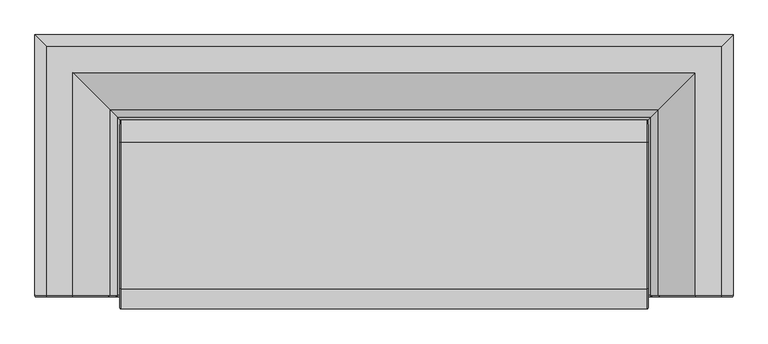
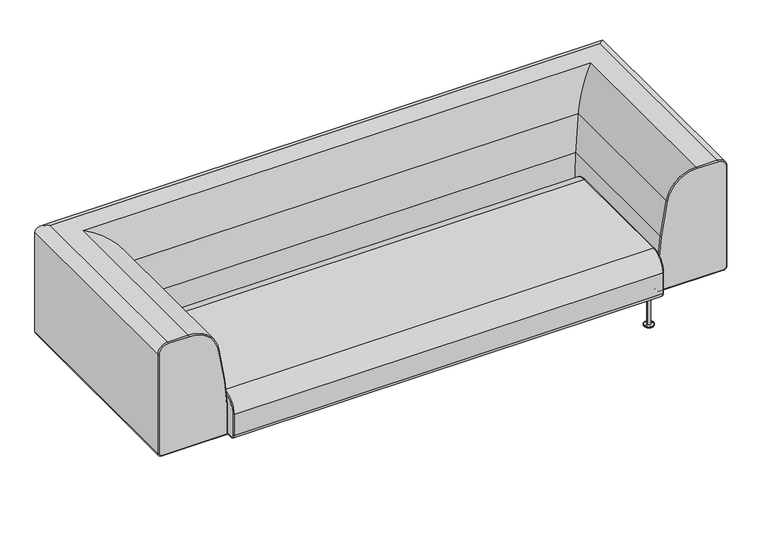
"""IFC4 building model written with IfcOpenShell, lengths in millimetres: furniture geometry, Hjelle - Gaia - Sofa - 3 Seater : Hjelle - Gaia - Sofa - 3 Seater."""

from ifc_helpers import new_model, si_unit, point, frame, origin, place, context, project, spatial, circle_curve, ellipse_curve, trimmed, source, transform, mapped, element, save
from ifc_brep_helpers import plane_surface, cylinder_surface, revolved_surface, advanced_brep


def furniture_0ea46fb2(model_context):
    return source(origin(), model_context, "Body", "AdvancedBrep", [
        advanced_brep(
        [(880.0, 260.6868798, 282.2761696), (880.0, 190.6868798, 352.2761696), (880.0, -298.6048224, 352.2761696), (880.0, -360.880992, 290.0), (880.0, -360.880992, 200.0), (880.0, -345.880992, 185.0), (880.0, 260.6868798, 185.0), (-880.0, 190.6868798, 352.2761696), (-880.0, 260.6868798, 282.2761696), (-880.0, 260.6868798, 185.0), (-880.0, -345.880992, 185.0), (-880.0, -360.880992, 200.0), (-880.0, -360.880992, 290.0), (-880.0, -298.6048224, 352.2761696), (-875.0, -365.880992, 290.0), (-875.0, -365.880992, 200.0), (875.0, -365.880992, 200.0), (875.0, -365.880992, 290.0), (-875.0, -345.880992, 180.0), (875.0, -345.880992, 180.0), (-875.0, 265.6868798, 180.0), (875.0, 265.6868798, 180.0), (-875.0, 265.6868798, 282.2761696), (875.0, 265.6868798, 282.2761696), (-875.0, 190.6868798, 357.2761696), (875.0, 190.6868798, 357.2761696), (-875.0, -298.6048224, 357.2761696), (875.0, -298.6048224, 357.2761696)],
        [
            (0, 1, circle_curve(frame((880.0, 190.6868798, 282.2761696), z_axis=(1.0, 0.0, 0.0), x_axis=(0.0, 0.0, 1.0)), 70.0)),
            (1, 2),
            (2, 3, circle_curve(frame((880.0, -298.6048224, 290.0), z_axis=(1.0, 0.0, 0.0), x_axis=(0.0, -1.0, 0.0)), 62.2761696)),
            (3, 4),
            (4, 5, circle_curve(frame((880.0, -345.880992, 200.0), z_axis=(1.0, 0.0, 0.0), x_axis=(0.0, 0.0, -1.0)), 15.0)),
            (5, 6),
            (6, 0),
            (7, 8, circle_curve(frame((-880.0, 190.6868798, 282.2761696), z_axis=(-1.0, 0.0, 0.0), x_axis=(0.0, 0.0, 1.0)), 70.0)),
            (8, 9),
            (9, 10),
            (10, 11, circle_curve(frame((-880.0, -345.880992, 200.0), z_axis=(-1.0, 0.0, 0.0), x_axis=(0.0, 0.0, -1.0)), 15.0)),
            (11, 12),
            (12, 13, circle_curve(frame((-880.0, -298.6048224, 290.0), z_axis=(-1.0, 0.0, 0.0), x_axis=(0.0, -1.0, 0.0)), 62.2761696)),
            (13, 7),
            (14, 15),
            (15, 16),
            (16, 17),
            (17, 14),
            (15, 18, circle_curve(frame((-875.0, -345.880992, 200.0), z_axis=(1.0, 0.0, 0.0), x_axis=(0.0, -1.0, 0.0)), 20.0)),
            (18, 19),
            (19, 16, circle_curve(frame((875.0, -345.880992, 200.0), z_axis=(-1.0, 0.0, 0.0), x_axis=(0.0, -1.0, 0.0)), 20.0)),
            (18, 20),
            (20, 21),
            (21, 19),
            (20, 22),
            (22, 23),
            (23, 21),
            (22, 24, circle_curve(frame((-875.0, 190.6868798, 282.2761696), z_axis=(1.0, 0.0, 0.0), x_axis=(0.0, -1.0, 0.0)), 75.0)),
            (24, 25),
            (25, 23, circle_curve(frame((875.0, 190.6868798, 282.2761696), z_axis=(-1.0, 0.0, 0.0), x_axis=(0.0, -1.0, 0.0)), 75.0)),
            (24, 26),
            (26, 27),
            (27, 25),
            (26, 14, circle_curve(frame((-875.0, -298.6048224, 290.0), z_axis=(1.0, 0.0, 0.0), x_axis=(0.0, -1.0, 0.0)), 67.2761696)),
            (17, 27, circle_curve(frame((875.0, -298.6048224, 290.0), z_axis=(-1.0, 0.0, 0.0), x_axis=(0.0, -1.0, 0.0)), 67.2761696)),
            (22, 8, circle_curve(frame((-875.0, 260.6868798, 282.2761696), z_axis=(0.0, 0.0, 1.0), x_axis=(1.0, 0.0, 0.0)), 5.0)),
            (7, 24, circle_curve(frame((-875.0, 190.6868798, 352.2761696), z_axis=(0.0, 1.0, 0.0), x_axis=(1.0, 0.0, 0.0)), 5.0)),
            (20, 9, ellipse_curve(frame((-875.0, 260.6868798, 185.0), z_axis=(0.0, 0.7071067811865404, 0.7071067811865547), x_axis=(0.0, 0.7071067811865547, -0.7071067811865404)), 7.0710678, 5.0)),
            (18, 10, circle_curve(frame((-875.0, -345.880992, 185.0), z_axis=(0.0, 1.0, 0.0), x_axis=(1.0, 0.0, 0.0)), 5.0)),
            (15, 11, circle_curve(frame((-875.0, -360.880992, 200.0), z_axis=(0.0, 0.0, -1.0), x_axis=(1.0, 0.0, 0.0)), 5.0)),
            (14, 12, circle_curve(frame((-875.0, -360.880992, 290.0), z_axis=(0.0, 0.0, -1.0), x_axis=(1.0, 0.0, 0.0)), 5.0)),
            (26, 13, circle_curve(frame((-875.0, -298.6048224, 352.2761696), z_axis=(0.0, -1.0, 0.0), x_axis=(1.0, 0.0, 0.0)), 5.0)),
            (0, 23, circle_curve(frame((875.0, 260.6868798, 282.2761696), z_axis=(0.0, 0.0, 1.0), x_axis=(-1.0, 0.0, 0.0)), 5.0)),
            (25, 1, circle_curve(frame((875.0, 190.6868798, 352.2761696), z_axis=(0.0, 1.0, 0.0), x_axis=(-1.0, 0.0, 0.0)), 5.0)),
            (6, 21, ellipse_curve(frame((875.0, 260.6868798, 185.0), z_axis=(0.0, 0.7071067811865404, 0.7071067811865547), x_axis=(0.0, 0.7071067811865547, -0.7071067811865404)), 7.0710678, 5.0)),
            (5, 19, circle_curve(frame((875.0, -345.880992, 185.0), z_axis=(0.0, 1.0, 0.0), x_axis=(-1.0, 0.0, 0.0)), 5.0)),
            (4, 16, circle_curve(frame((875.0, -360.880992, 200.0), z_axis=(0.0, 0.0, -1.0), x_axis=(-1.0, 0.0, 0.0)), 5.0)),
            (3, 17, circle_curve(frame((875.0, -360.880992, 290.0), z_axis=(0.0, 0.0, -1.0), x_axis=(-1.0, 0.0, 0.0)), 5.0)),
            (2, 27, circle_curve(frame((875.0, -298.6048224, 352.2761696), z_axis=(0.0, -1.0, 0.0), x_axis=(-1.0, 0.0, 0.0)), 5.0)),
        ],
        [
            plane_surface(frame((880.0, -365.880992, 200.0), z_axis=(1.0, 0.0, 0.0), x_axis=(0.0, 0.0, -1.0))),
            plane_surface(frame((-880.0, -365.880992, 200.0), z_axis=(-1.0, 0.0, 0.0), x_axis=(0.0, 0.0, 1.0))),
            plane_surface(frame((880.0, -365.880992, 290.0), z_axis=(0.0, -1.0, 0.0), x_axis=(-1.0, 0.0, 0.0))),
            cylinder_surface(frame((-880.0, -345.880992, 200.0), z_axis=(1.0, 0.0, 0.0), x_axis=(0.0, -1.0, 0.0)), 20.0),
            plane_surface(frame((880.0, -345.880992, 180.0), z_axis=(0.0, 0.0, -1.0), x_axis=(-1.0, 0.0, 0.0))),
            plane_surface(frame((880.0, 265.6868798, 180.0), z_axis=(0.0, 1.0, 0.0), x_axis=(-1.0, 0.0, 0.0))),
            cylinder_surface(frame((-880.0, 190.6868798, 282.2761696), z_axis=(1.0, 0.0, 0.0), x_axis=(0.0, -1.0, 0.0)), 75.0),
            plane_surface(frame((880.0, 190.6868798, 357.2761696), z_axis=(0.0, 0.0, 1.0), x_axis=(-1.0, 0.0, 0.0))),
            cylinder_surface(frame((-880.0, -298.6048224, 290.0), z_axis=(1.0, 0.0, 0.0), x_axis=(0.0, -1.0, 0.0)), 67.2761696),
            revolved_surface(trimmed(ellipse_curve(frame((-875.0, 190.6868798, 352.2761696), z_axis=(0.0, -1.0, 0.0), x_axis=(1.0, 0.0, 0.0)), 5.0, 5.0), [point((-875.0, 190.6868798, 357.2761696))], [point((-880.0, 190.6868798, 352.2761696))], True, "CARTESIAN"), (0.0, 190.6868798, 282.2761696), (-1.0, 0.0, 0.0)),
            cylinder_surface(frame((-875.0, 260.6868798, 282.2761696), z_axis=(0.0, 0.0, -1.0), x_axis=(1.0, 0.0, 0.0)), 5.0),
            cylinder_surface(frame((-875.0, 265.6868798, 185.0), z_axis=(0.0, -1.0, 0.0), x_axis=(1.0, 0.0, 0.0)), 5.0),
            revolved_surface(trimmed(ellipse_curve(frame((-875.0, -345.880992, 185.0), z_axis=(0.0, 1.0, 0.0), x_axis=(1.0, 0.0, 0.0)), 5.0, 5.0), [point((-875.0, -345.880992, 180.0))], [point((-880.0, -345.880992, 185.0))], True, "CARTESIAN"), (0.0, -345.880992, 200.0), (-1.0, 0.0, 0.0)),
            cylinder_surface(frame((-875.0, -360.880992, 200.0), z_axis=(0.0, 0.0, 1.0), x_axis=(1.0, 0.0, 0.0)), 5.0),
            revolved_surface(trimmed(ellipse_curve(frame((-875.0, -360.880992, 290.0), z_axis=(0.0, 0.0, -1.0), x_axis=(1.0, 0.0, 0.0)), 5.0, 5.0), [point((-875.0, -365.880992, 290.0))], [point((-880.0, -360.880992, 290.0))], True, "CARTESIAN"), (0.0, -298.6048224, 290.0), (-1.0, 0.0, 0.0)),
            cylinder_surface(frame((-875.0, -298.6048224, 352.2761696), z_axis=(0.0, 1.0, 0.0), x_axis=(1.0, 0.0, 0.0)), 5.0),
            revolved_surface(trimmed(ellipse_curve(frame((875.0, 190.6868798, 352.2761696), z_axis=(0.0, -1.0, 0.0), x_axis=(-1.0, 0.0, 0.0)), 5.0, 5.0), [point((880.0, 190.6868798, 352.2761696))], [point((875.0, 190.6868798, 357.2761696))], True, "CARTESIAN"), (0.0, 190.6868798, 282.2761696), (-1.0, 0.0, 0.0)),
            cylinder_surface(frame((875.0, 260.6868798, 282.2761696), z_axis=(0.0, 0.0, -1.0), x_axis=(-1.0, 0.0, 0.0)), 5.0),
            cylinder_surface(frame((875.0, 265.6868798, 185.0), z_axis=(0.0, -1.0, 0.0), x_axis=(-1.0, 0.0, 0.0)), 5.0),
            revolved_surface(trimmed(ellipse_curve(frame((875.0, -345.880992, 185.0), z_axis=(0.0, 1.0, 0.0), x_axis=(-1.0, 0.0, 0.0)), 5.0, 5.0), [point((880.0, -345.880992, 185.0))], [point((875.0, -345.880992, 180.0))], True, "CARTESIAN"), (0.0, -345.880992, 200.0), (-1.0, 0.0, 0.0)),
            cylinder_surface(frame((875.0, -360.880992, 200.0), z_axis=(0.0, 0.0, 1.0), x_axis=(-1.0, 0.0, 0.0)), 5.0),
            revolved_surface(trimmed(ellipse_curve(frame((875.0, -360.880992, 290.0), z_axis=(0.0, 0.0, -1.0), x_axis=(-1.0, 0.0, 0.0)), 5.0, 5.0), [point((880.0, -360.880992, 290.0))], [point((875.0, -365.880992, 290.0))], True, "CARTESIAN"), (0.0, -298.6048224, 290.0), (-1.0, 0.0, 0.0)),
            cylinder_surface(frame((875.0, -298.6048224, 352.2761696), z_axis=(0.0, 1.0, 0.0), x_axis=(-1.0, 0.0, 0.0)), 5.0),
        ],
        [
            (0, [[1, 2, 3, 4, 5, 6, 7]]),
            (1, [[8, 9, 10, 11, 12, 13, 14]]),
            (2, [[15, 16, 17, 18]]),
            (3, [[19, 20, 21, -16]]),
            (4, [[22, 23, 24, -20]]),
            (5, [[25, 26, 27, -23]]),
            (6, [[28, 29, 30, -26]]),
            (7, [[31, 32, 33, -29]]),
            (8, [[34, -18, 35, -32]]),
            (9, [[36, -8, 37, -28]]),
            (10, [[-36, -25, 38, -9]]),
            (11, [[-38, -22, 39, -10]]),
            (12, [[-39, -19, 40, -11]]),
            (13, [[-40, -15, 41, -12]]),
            (14, [[-41, -34, 42, -13]]),
            (15, [[-37, -14, -42, -31]]),
            (16, [[43, -30, 44, -1]]),
            (17, [[-43, -7, 45, -27]]),
            (18, [[-45, -6, 46, -24]]),
            (19, [[-46, -5, 47, -21]]),
            (20, [[-47, -4, 48, -17]]),
            (21, [[-48, -3, 49, -35]]),
            (22, [[-44, -33, -49, -2]]),
        ],
    ),
        advanced_brep(
        [(-1158.4321283, -325.880992, 195.0), (-1148.4321283, -325.880992, 185.0), (-885.0, -325.880992, 185.0), (-885.0, -325.880992, 310.1819798), (-894.1913094, -325.880992, 415.2391273), (-919.7055862, -325.880992, 559.9377813), (-1037.8825166, -325.880992, 659.1), (-1123.4321283, -325.880992, 659.1), (-1158.4321283, -325.880992, 624.1), (-1163.4321283, 549.119008, 624.1), (-1163.4321283, 549.119008, 195.0), (-1163.4321283, -320.8809993, 195.0), (-1163.4321283, -320.880992, 624.1), (-1148.4321283, 534.119008, 180.0), (-1148.4321283, -320.8809993, 180.0), (1148.4321283, 534.119008, 180.0), (1148.4321283, -320.880992, 180.0), (880.0, -320.880992, 180.0), (880.0, 265.6868798, 180.0), (-880.0, 265.6868798, 180.0), (-880.0, -320.880992, 180.0), (-880.0, 265.6868798, 310.1819798), (-880.0, -320.880992, 310.1819798), (-889.2672707, 274.9541505, 416.1073681), (-889.2672707, -320.8809927, 416.1073681), (-914.7815474, 300.4684272, 560.8060222), (-914.7815474, -320.880992, 560.8060222), (-1037.8825166, 423.5693964, 664.1), (-1037.8825166, -320.8809943, 664.1), (1037.8825166, 423.5693964, 664.1), (1037.8825166, -320.880992, 664.1), (1123.4321283, -320.880992, 664.1), (1123.4321283, 509.119008, 664.1), (-1123.4321283, 509.119008, 664.1), (-1123.4321283, -320.880992, 664.1), (1163.4321283, 549.119008, 624.1), (1163.4321283, 549.119008, 195.0), (880.0, 265.6868798, 310.1819798), (889.2672707, 274.9541505, 416.1073681), (914.7815474, 300.4684272, 560.8060222), (1148.4321283, -325.880992, 185.0), (1158.4321283, -325.880992, 195.0), (1158.4321283, -325.880992, 624.1), (1123.4321283, -325.880992, 659.1), (1037.8825166, -325.880992, 659.1), (919.7055862, -325.880992, 559.9377813), (894.1913094, -325.880992, 415.2391273), (885.0, -325.880992, 310.1819798), (885.0, -325.880992, 185.0), (1163.4321283, -320.880992, 624.1), (1163.4321283, -320.880992, 195.0), (880.0, -320.880992, 310.1819798), (889.2672707, -320.880992, 416.1073681), (914.7815474, -320.880992, 560.8060222)],
        [
            (0, 1, circle_curve(frame((-1148.4321283, -325.880992, 195.0), z_axis=(0.0, -1.0, 0.0), x_axis=(-1.0, 0.0, 0.0)), 10.0)),
            (1, 2),
            (2, 3),
            (3, 4, circle_curve(frame((-1490.0, -325.880992, 310.1819798), z_axis=(0.0, -1.0, 0.0), x_axis=(1.0, 0.0, 0.0)), 605.0)),
            (4, 5),
            (5, 6, circle_curve(frame((-1037.8825166, -325.880992, 539.1), z_axis=(0.0, -1.0, 0.0), x_axis=(0.9848077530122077, 0.0, 0.17364817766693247)), 120.0)),
            (6, 7),
            (7, 8, circle_curve(frame((-1123.4321283, -325.880992, 624.1), z_axis=(0.0, -1.0, 0.0), x_axis=(0.0, 0.0, 1.0)), 35.0)),
            (8, 0),
            (9, 10),
            (10, 11),
            (11, 12),
            (12, 9),
            (10, 13, ellipse_curve(frame((-1148.4321283, 534.119008, 195.0), z_axis=(-0.7071067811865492, -0.7071067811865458, 0.0), x_axis=(0.7071067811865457, -0.7071067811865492, 0.0)), 21.2132034, 15.0)),
            (13, 14),
            (14, 11, circle_curve(frame((-1148.4321283, -320.880992, 195.0), z_axis=(0.0, 1.0, 0.0), x_axis=(1.0, 0.0, 0.0)), 15.0)),
            (13, 15),
            (15, 16),
            (16, 17),
            (17, 18),
            (18, 19),
            (19, 20),
            (20, 14),
            (19, 21),
            (21, 22),
            (22, 20),
            (21, 23, ellipse_curve(frame((-1490.0, 875.6868798, 310.1819798), z_axis=(-0.7071067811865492, -0.7071067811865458, 0.0), x_axis=(0.7071067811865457, -0.7071067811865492, 0.0)), 862.670273, 610.0)),
            (23, 24),
            (24, 22, circle_curve(frame((-1490.0, -320.880992, 310.1819798), z_axis=(0.0, 1.0, 0.0), x_axis=(1.0, 0.0, 0.0)), 610.0)),
            (23, 25),
            (25, 26),
            (26, 24),
            (25, 27, ellipse_curve(frame((-1037.8825166, 423.5693964, 539.1), z_axis=(-0.7071067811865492, -0.7071067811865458, 0.0), x_axis=(0.7071067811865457, -0.7071067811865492, 0.0)), 176.7766953, 125.0)),
            (27, 28),
            (28, 26, circle_curve(frame((-1037.8825166, -320.880992, 539.1), z_axis=(0.0, 1.0, 0.0), x_axis=(1.0, 0.0, 0.0)), 125.0)),
            (27, 29),
            (29, 30),
            (30, 31),
            (31, 32),
            (32, 33),
            (33, 34),
            (34, 28),
            (33, 9, ellipse_curve(frame((-1123.4321283, 509.119008, 624.1), z_axis=(-0.7071067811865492, -0.7071067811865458, 0.0), x_axis=(0.7071067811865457, -0.7071067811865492, 0.0)), 56.5685425, 40.0)),
            (12, 34, circle_curve(frame((-1123.4321283, -320.880992, 624.1), z_axis=(0.0, 1.0, 0.0), x_axis=(1.0, 0.0, 0.0)), 40.0)),
            (9, 35),
            (35, 36),
            (36, 10),
            (36, 15, ellipse_curve(frame((1148.4321283, 534.119008, 195.0), z_axis=(-0.7071067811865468, 0.7071067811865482, 0.0), x_axis=(-0.7071067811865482, -0.7071067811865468, 0.0)), 21.2132034, 15.0)),
            (18, 37),
            (37, 21),
            (37, 38, ellipse_curve(frame((1490.0, 875.6868798, 310.1819798), z_axis=(-0.7071067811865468, 0.7071067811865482, 0.0), x_axis=(-0.7071067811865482, -0.7071067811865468, 0.0)), 862.670273, 610.0)),
            (38, 23),
            (38, 39),
            (39, 25),
            (39, 29, ellipse_curve(frame((1037.8825166, 423.5693964, 539.1), z_axis=(-0.7071067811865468, 0.7071067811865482, 0.0), x_axis=(-0.7071067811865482, -0.7071067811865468, 0.0)), 176.7766953, 125.0)),
            (32, 35, ellipse_curve(frame((1123.4321283, 509.119008, 624.1), z_axis=(-0.7071067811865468, 0.7071067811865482, 0.0), x_axis=(-0.7071067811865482, -0.7071067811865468, 0.0)), 56.5685425, 40.0)),
            (40, 41, circle_curve(frame((1148.4321283, -325.880992, 195.0), z_axis=(0.0, -1.0, 0.0), x_axis=(1.0, 0.0, 0.0)), 10.0)),
            (41, 42),
            (42, 43, circle_curve(frame((1123.4321283, -325.880992, 624.1), z_axis=(0.0, -1.0, 0.0), x_axis=(0.0, 0.0, 1.0)), 35.0)),
            (43, 44),
            (44, 45, circle_curve(frame((1037.8825166, -325.880992, 539.1), z_axis=(0.0, -1.0, 0.0), x_axis=(-0.9848077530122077, 0.0, 0.17364817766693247)), 120.0)),
            (45, 46),
            (46, 47, circle_curve(frame((1490.0, -325.880992, 310.1819798), z_axis=(0.0, -1.0, 0.0), x_axis=(-1.0, 0.0, 0.0)), 605.0)),
            (47, 48),
            (48, 40),
            (35, 49),
            (49, 50),
            (50, 36),
            (50, 16, circle_curve(frame((1148.4321283, -320.880992, 195.0), z_axis=(0.0, 1.0, 0.0), x_axis=(-1.0, 0.0, 0.0)), 15.0)),
            (17, 51),
            (51, 37),
            (51, 52, circle_curve(frame((1490.0, -320.880992, 310.1819798), z_axis=(0.0, 1.0, 0.0), x_axis=(-1.0, 0.0, 0.0)), 610.0)),
            (52, 38),
            (52, 53),
            (53, 39),
            (53, 30, circle_curve(frame((1037.8825166, -320.880992, 539.1), z_axis=(0.0, 1.0, 0.0), x_axis=(-1.0, 0.0, 0.0)), 125.0)),
            (31, 49, circle_curve(frame((1123.4321283, -320.880992, 624.1), z_axis=(0.0, 1.0, 0.0), x_axis=(-1.0, 0.0, 0.0)), 40.0)),
            (40, 16, circle_curve(frame((1148.4321283, -320.880992, 185.0), z_axis=(1.0, 0.0, 0.0), x_axis=(0.0, 0.0, 1.0)), 5.0)),
            (50, 41, circle_curve(frame((1158.4321283, -320.880992, 195.0), z_axis=(0.0, 0.0, -1.0), x_axis=(-1.0, 0.0, 0.0)), 5.0)),
            (48, 17, ellipse_curve(frame((885.0, -320.880992, 185.0), z_axis=(0.7071067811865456, 0.0, -0.7071067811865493), x_axis=(-0.7071067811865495, 0.0, -0.7071067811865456)), 7.0710678, 5.0)),
            (47, 51, circle_curve(frame((885.0, -320.880992, 310.1819798), z_axis=(0.0, 0.0, -1.0), x_axis=(1.0, 0.0, 0.0)), 5.0)),
            (46, 52, circle_curve(frame((894.1913094, -320.880992, 415.2391273), z_axis=(-0.17364817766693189, 0.0, -0.9848077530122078), x_axis=(0.9848077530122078, 0.0, -0.17364817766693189)), 5.0)),
            (45, 53, circle_curve(frame((919.7055862, -320.880992, 559.9377813), z_axis=(-0.17364817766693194, 0.0, -0.9848077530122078), x_axis=(0.9848077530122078, 0.0, -0.17364817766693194)), 5.0)),
            (44, 30, circle_curve(frame((1037.8825166, -320.880992, 659.1), z_axis=(-1.0, 0.0, 0.0), x_axis=(0.0, 0.0, -1.0)), 5.0)),
            (43, 31, circle_curve(frame((1123.4321283, -320.880992, 659.1), z_axis=(-1.0, 0.0, 0.0), x_axis=(0.0, 0.0, -1.0)), 5.0)),
            (42, 49, circle_curve(frame((1158.4321283, -320.880992, 624.1), z_axis=(0.0, 0.0, 1.0), x_axis=(-1.0, 0.0, 0.0)), 5.0)),
            (14, 1, circle_curve(frame((-1148.4321283, -320.880992, 185.0), z_axis=(-1.0, 0.0, 0.0), x_axis=(0.0, 0.0, 1.0)), 5.0)),
            (0, 11, circle_curve(frame((-1158.4321283, -320.880992, 195.0), z_axis=(0.0, 0.0, -1.0), x_axis=(1.0, 0.0, 0.0)), 5.0)),
            (20, 2, ellipse_curve(frame((-885.0, -320.880992, 185.0), z_axis=(-0.7071067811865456, 0.0, -0.7071067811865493), x_axis=(0.7071067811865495, 0.0, -0.7071067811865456)), 7.0710678, 5.0)),
            (22, 3, circle_curve(frame((-885.0, -320.880992, 310.1819798), z_axis=(0.0, 0.0, -1.0), x_axis=(-1.0, 0.0, 0.0)), 5.0)),
            (24, 4, circle_curve(frame((-894.1913094, -320.880992, 415.2391273), z_axis=(0.17364817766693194, 0.0, -0.9848077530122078), x_axis=(-0.9848077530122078, 0.0, -0.17364817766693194)), 5.0)),
            (26, 5, circle_curve(frame((-919.7055862, -320.880992, 559.9377813), z_axis=(0.173648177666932, 0.0, -0.9848077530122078), x_axis=(-0.9848077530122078, 0.0, -0.173648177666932)), 5.0)),
            (28, 6, circle_curve(frame((-1037.8825166, -320.880992, 659.1), z_axis=(1.0, 0.0, 0.0), x_axis=(0.0, 0.0, -1.0)), 5.0)),
            (34, 7, circle_curve(frame((-1123.4321283, -320.880992, 659.1), z_axis=(1.0, 0.0, 0.0), x_axis=(0.0, 0.0, -1.0)), 5.0)),
            (12, 8, circle_curve(frame((-1158.4321283, -320.880992, 624.1), z_axis=(0.0, 0.0, 1.0), x_axis=(1.0, 0.0, 0.0)), 5.0)),
        ],
        [
            plane_surface(frame((-1163.4321283, -325.880992, 0.0), z_axis=(0.0, -1.0, 0.0), x_axis=(0.0, 0.0, 1.0))),
            plane_surface(frame((-1163.4321283, -325.880992, 624.1), z_axis=(-1.0, 0.0, 0.0), x_axis=(0.0, 1.0, 0.0))),
            cylinder_surface(frame((-1148.4321283, -325.880992, 195.0), z_axis=(0.0, -1.0, 0.0), x_axis=(1.0, 0.0, 0.0)), 15.0),
            plane_surface(frame((-1148.4321283, -325.880992, 180.0), z_axis=(0.0, 0.0, -1.0), x_axis=(0.0, 1.0, 0.0))),
            plane_surface(frame((-880.0, -325.880992, 180.0), z_axis=(1.0, 0.0, 0.0), x_axis=(0.0, 1.0, 0.0))),
            cylinder_surface(frame((-1490.0, -325.880992, 310.1819798), z_axis=(0.0, -1.0, 0.0), x_axis=(1.0, 0.0, 0.0)), 610.0),
            plane_surface(frame((-889.2672707, -325.880992, 416.1073681), z_axis=(0.9848077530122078, 0.0, 0.17364817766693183), x_axis=(0.0, 1.0, 0.0))),
            cylinder_surface(frame((-1037.8825166, -325.880992, 539.1), z_axis=(0.0, -1.0, 0.0), x_axis=(1.0, 0.0, 0.0)), 125.0),
            plane_surface(frame((-1037.8825166, -325.880992, 664.1), z_axis=(0.0, 0.0, 1.0), x_axis=(0.0, 1.0, 0.0))),
            cylinder_surface(frame((-1123.4321283, -325.880992, 624.1), z_axis=(0.0, -1.0, 0.0), x_axis=(1.0, 0.0, 0.0)), 40.0),
            plane_surface(frame((-1163.4321283, 549.119008, 624.1), z_axis=(0.0, 1.0, 0.0), x_axis=(1.0, 0.0, 0.0))),
            cylinder_surface(frame((-1163.4321283, 534.119008, 195.0), z_axis=(-1.0, 0.0, 0.0), x_axis=(0.0, -1.0, 0.0)), 15.0),
            plane_surface(frame((-880.0, 265.6868798, 180.0), z_axis=(0.0, -1.0, 0.0), x_axis=(1.0, 0.0, 0.0))),
            cylinder_surface(frame((-1163.4321283, 875.6868798, 310.1819798), z_axis=(-1.0, 0.0, 0.0), x_axis=(0.0, -1.0, 0.0)), 610.0),
            plane_surface(frame((-889.2672707, 274.9541505, 416.1073681), z_axis=(0.0, -0.9848077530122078, 0.17364817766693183), x_axis=(1.0, 0.0, 0.0))),
            cylinder_surface(frame((-1163.4321283, 423.5693964, 539.1), z_axis=(-1.0, 0.0, 0.0), x_axis=(0.0, -1.0, 0.0)), 125.0),
            cylinder_surface(frame((-1163.4321283, 509.119008, 624.1), z_axis=(-1.0, 0.0, 0.0), x_axis=(0.0, -1.0, 0.0)), 40.0),
            plane_surface(frame((1163.4321283, -325.880992, 0.0), z_axis=(0.0, -1.0, 0.0), x_axis=(0.0, 0.0, 1.0))),
            plane_surface(frame((1163.4321283, 549.119008, 624.1), z_axis=(1.0, 0.0, 0.0), x_axis=(0.0, -1.0, 0.0))),
            cylinder_surface(frame((1148.4321283, 549.119008, 195.0), z_axis=(0.0, 1.0, 0.0), x_axis=(-1.0, 0.0, 0.0)), 15.0),
            plane_surface(frame((880.0, 265.6868798, 180.0), z_axis=(-1.0, 0.0, 0.0), x_axis=(0.0, -1.0, 0.0))),
            cylinder_surface(frame((1490.0, 549.119008, 310.1819798), z_axis=(0.0, 1.0, 0.0), x_axis=(-1.0, 0.0, 0.0)), 610.0),
            plane_surface(frame((889.2672707, 274.9541505, 416.1073681), z_axis=(-0.9848077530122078, 0.0, 0.17364817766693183), x_axis=(0.0, -1.0, 0.0))),
            cylinder_surface(frame((1037.8825166, 549.119008, 539.1), z_axis=(0.0, 1.0, 0.0), x_axis=(-1.0, 0.0, 0.0)), 125.0),
            cylinder_surface(frame((1123.4321283, 549.119008, 624.1), z_axis=(0.0, 1.0, 0.0), x_axis=(-1.0, 0.0, 0.0)), 40.0),
            revolved_surface(trimmed(ellipse_curve(frame((1158.4321283, -320.880992, 195.0), z_axis=(0.0, 0.0, 1.0), x_axis=(-1.0, 0.0, 0.0)), 5.0, 5.0), [point((1158.4321283, -325.880992, 195.0))], [point((1163.4321283, -320.880992, 195.0))], True, "CARTESIAN"), (1148.4321283, 0.0, 195.0), (0.0, 1.0, 0.0)),
            cylinder_surface(frame((1148.4321283, -320.880992, 185.0), z_axis=(-1.0, 0.0, 0.0), x_axis=(0.0, 0.0, 1.0)), 5.0),
            cylinder_surface(frame((885.0, -320.880992, 180.0), z_axis=(0.0, 0.0, 1.0), x_axis=(1.0, 0.0, 0.0)), 5.0),
            revolved_surface(trimmed(ellipse_curve(frame((885.0, -320.880992, 310.1819798), z_axis=(0.0, 0.0, -1.0), x_axis=(1.0, 0.0, 0.0)), 5.0, 5.0), [point((885.0, -325.880992, 310.1819798))], [point((880.0, -320.880992, 310.1819798))], True, "CARTESIAN"), (1490.0, 0.0, 310.1819798), (0.0, 1.0, 0.0)),
            cylinder_surface(frame((894.1913094, -320.880992, 415.2391273), z_axis=(0.17364817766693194, 0.0, 0.9848077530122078), x_axis=(0.9848077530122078, 0.0, -0.17364817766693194)), 5.0),
            revolved_surface(trimmed(ellipse_curve(frame((919.7055862, -320.880992, 559.9377813), z_axis=(-0.1736481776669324, 0.0, -0.9848077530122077), x_axis=(0.9848077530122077, 0.0, -0.1736481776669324)), 5.0, 5.0), [point((919.7055862, -325.880992, 559.9377813))], [point((914.7815474, -320.880992, 560.8060222))], True, "CARTESIAN"), (1037.8825166, 0.0, 539.1), (0.0, 1.0, 0.0)),
            cylinder_surface(frame((1037.8825166, -320.880992, 659.1), z_axis=(1.0, 0.0, 0.0), x_axis=(0.0, 0.0, -1.0)), 5.0),
            revolved_surface(trimmed(ellipse_curve(frame((1123.4321283, -320.880992, 659.1), z_axis=(-1.0, 0.0, 0.0), x_axis=(0.0, 0.0, -1.0)), 5.0, 5.0), [point((1123.4321283, -325.880992, 659.1))], [point((1123.4321283, -320.880992, 664.1))], True, "CARTESIAN"), (1123.4321283, 0.0, 624.1), (0.0, 1.0, 0.0)),
            cylinder_surface(frame((1158.4321283, -320.880992, 624.1), z_axis=(0.0, 0.0, -1.0), x_axis=(-1.0, 0.0, 0.0)), 5.0),
            revolved_surface(trimmed(ellipse_curve(frame((-1158.4321283, -320.880992, 195.0), z_axis=(0.0, 0.0, 1.0), x_axis=(1.0, 0.0, 0.0)), 5.0, 5.0), [point((-1163.4321283, -320.880992, 195.0))], [point((-1158.4321283, -325.880992, 195.0))], True, "CARTESIAN"), (-1148.4321283, 0.0, 195.0), (0.0, -1.0, 0.0)),
            cylinder_surface(frame((-1148.4321283, -320.880992, 185.0), z_axis=(1.0, 0.0, 0.0), x_axis=(0.0, 0.0, 1.0)), 5.0),
            cylinder_surface(frame((-885.0, -320.880992, 180.0), z_axis=(0.0, 0.0, 1.0), x_axis=(-1.0, 0.0, 0.0)), 5.0),
            revolved_surface(trimmed(ellipse_curve(frame((-885.0, -320.880992, 310.1819798), z_axis=(0.0, 0.0, -1.0), x_axis=(-1.0, 0.0, 0.0)), 5.0, 5.0), [point((-880.0, -320.880992, 310.1819798))], [point((-885.0, -325.880992, 310.1819798))], True, "CARTESIAN"), (-1490.0, 0.0, 310.1819798), (0.0, -1.0, 0.0)),
            cylinder_surface(frame((-894.1913094, -320.880992, 415.2391273), z_axis=(-0.173648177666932, 0.0, 0.9848077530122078), x_axis=(-0.9848077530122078, 0.0, -0.173648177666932)), 5.0),
            revolved_surface(trimmed(ellipse_curve(frame((-919.7055862, -320.880992, 559.9377813), z_axis=(0.17364817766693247, 0.0, -0.9848077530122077), x_axis=(-0.9848077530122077, 0.0, -0.17364817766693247)), 5.0, 5.0), [point((-914.7815474, -320.880992, 560.8060222))], [point((-919.7055862, -325.880992, 559.9377813))], True, "CARTESIAN"), (-1037.8825166, 0.0, 539.1), (0.0, -1.0, 0.0)),
            cylinder_surface(frame((-1037.8825166, -320.880992, 659.1), z_axis=(-1.0, 0.0, 0.0), x_axis=(0.0, 0.0, -1.0)), 5.0),
            revolved_surface(trimmed(ellipse_curve(frame((-1123.4321283, -320.880992, 659.1), z_axis=(1.0, 0.0, 0.0), x_axis=(0.0, 0.0, -1.0)), 5.0, 5.0), [point((-1123.4321283, -320.880992, 664.1))], [point((-1123.4321283, -325.880992, 659.1))], True, "CARTESIAN"), (-1123.4321283, 0.0, 624.1), (0.0, -1.0, 0.0)),
            cylinder_surface(frame((-1158.4321283, -320.880992, 624.1), z_axis=(0.0, 0.0, -1.0), x_axis=(1.0, 0.0, 0.0)), 5.0),
        ],
        [
            (0, [[1, 2, 3, 4, 5, 6, 7, 8, 9]]),
            (1, [[10, 11, 12, 13]]),
            (2, [[14, 15, 16, -11]]),
            (3, [[17, 18, 19, 20, 21, 22, 23, -15]]),
            (4, [[24, 25, 26, -22]]),
            (5, [[27, 28, 29, -25]]),
            (6, [[30, 31, 32, -28]]),
            (7, [[33, 34, 35, -31]]),
            (8, [[36, 37, 38, 39, 40, 41, 42, -34]]),
            (9, [[43, -13, 44, -41]]),
            (10, [[-10, 45, 46, 47]]),
            (11, [[-14, -47, 48, -17]]),
            (12, [[-21, 49, 50, -24]]),
            (13, [[-27, -50, 51, 52]]),
            (14, [[-30, -52, 53, 54]]),
            (15, [[-33, -54, 55, -36]]),
            (16, [[-40, 56, -45, -43]]),
            (17, [[57, 58, 59, 60, 61, 62, 63, 64, 65]]),
            (18, [[-46, 66, 67, 68]]),
            (19, [[-48, -68, 69, -18]]),
            (20, [[-49, -20, 70, 71]]),
            (21, [[-51, -71, 72, 73]]),
            (22, [[-53, -73, 74, 75]]),
            (23, [[-55, -75, 76, -37]]),
            (24, [[-56, -39, 77, -66]]),
            (25, [[78, -69, 79, -57]]),
            (26, [[-78, -65, 80, -19]]),
            (27, [[-80, -64, 81, -70]]),
            (28, [[-81, -63, 82, -72]]),
            (29, [[-82, -62, 83, -74]]),
            (30, [[-83, -61, 84, -76]]),
            (31, [[-84, -60, 85, -38]]),
            (32, [[-85, -59, 86, -77]]),
            (33, [[-79, -67, -86, -58]]),
            (34, [[87, -1, 88, -16]]),
            (35, [[-87, -23, 89, -2]]),
            (36, [[-89, -26, 90, -3]]),
            (37, [[-90, -29, 91, -4]]),
            (38, [[-91, -32, 92, -5]]),
            (39, [[-92, -35, 93, -6]]),
            (40, [[-93, -42, 94, -7]]),
            (41, [[-94, -44, 95, -8]]),
            (42, [[-88, -9, -95, -12]]),
        ],
    ),
        advanced_brep(
        [(861.0005135, 469.904008, 4.0), (899.0005135, 469.904008, 4.0), (887.0005135, 469.904008, 4.0), (873.0005135, 469.904008, 4.0), (860.0005135, 469.904008, 3.0), (900.0005135, 469.904008, 3.0), (860.0005135, 469.904008, 1.0), (900.0005135, 469.904008, 1.0), (861.0005135, 469.904008, 0.0), (899.0005135, 469.904008, 0.0), (880.0005135, 469.904008, 0.0), (840.0005135, 469.904008, 180.0), (920.0005135, 469.904008, 180.0), (880.0005135, 469.904008, 180.0), (840.0005135, 469.904008, 177.0), (920.0005135, 469.904008, 177.0), (841.0005135, 469.904008, 176.0), (919.0005135, 469.904008, 176.0), (873.0005135, 469.904008, 176.0), (887.0005135, 469.904008, 176.0)],
        [
            (0, 1, circle_curve(frame((880.0005135, 469.904008, 4.0), z_axis=(0.0, 0.0, 1.0), x_axis=(1.0, 0.0, 0.0)), 19.0)),
            (1, 2),
            (2, 3, circle_curve(frame((880.0005135, 469.904008, 4.0), z_axis=(0.0, 0.0, -1.0), x_axis=(1.0, 0.0, 0.0)), 7.0)),
            (3, 0),
            (1, 0, circle_curve(frame((880.0005135, 469.904008, 4.0), z_axis=(0.0, 0.0, 1.0), x_axis=(1.0, 0.0, 0.0)), 19.0)),
            (3, 2, circle_curve(frame((880.0005135, 469.904008, 4.0), z_axis=(0.0, 0.0, -1.0), x_axis=(1.0, 0.0, 0.0)), 7.0)),
            (4, 5, circle_curve(frame((880.0005135, 469.904008, 3.0), z_axis=(0.0, 0.0, 1.0), x_axis=(1.0, 0.0, 0.0)), 20.0)),
            (5, 1, circle_curve(frame((899.0005135, 469.904008, 3.0), z_axis=(0.0, -1.0, 0.0), x_axis=(-1.0, 0.0, 0.0)), 1.0)),
            (0, 4, circle_curve(frame((861.0005135, 469.904008, 3.0), z_axis=(0.0, -1.0, 0.0), x_axis=(1.0, 0.0, 0.0)), 1.0)),
            (5, 4, circle_curve(frame((880.0005135, 469.904008, 3.0), z_axis=(0.0, 0.0, 1.0), x_axis=(1.0, 0.0, 0.0)), 20.0)),
            (6, 7, circle_curve(frame((880.0005135, 469.904008, 1.0), z_axis=(0.0, 0.0, 1.0), x_axis=(1.0, 0.0, 0.0)), 20.0)),
            (7, 5),
            (4, 6),
            (7, 6, circle_curve(frame((880.0005135, 469.904008, 1.0), z_axis=(0.0, 0.0, 1.0), x_axis=(1.0, 0.0, 0.0)), 20.0)),
            (8, 9, circle_curve(frame((880.0005135, 469.904008, 0.0), z_axis=(0.0, 0.0, 1.0), x_axis=(1.0, 0.0, 0.0)), 19.0)),
            (9, 7, circle_curve(frame((899.0005135, 469.904008, 1.0), z_axis=(0.0, -1.0, 0.0), x_axis=(-1.0, 0.0, 0.0)), 1.0)),
            (6, 8, circle_curve(frame((861.0005135, 469.904008, 1.0), z_axis=(0.0, -1.0, 0.0), x_axis=(1.0, 0.0, 0.0)), 1.0)),
            (9, 8, circle_curve(frame((880.0005135, 469.904008, 0.0), z_axis=(0.0, 0.0, 1.0), x_axis=(1.0, 0.0, 0.0)), 19.0)),
            (10, 9),
            (8, 10),
            (11, 12, circle_curve(frame((880.0005135, 469.904008, 180.0), z_axis=(0.0, 0.0, 1.0), x_axis=(1.0, 0.0, 0.0)), 40.0)),
            (12, 13),
            (13, 11),
            (12, 11, circle_curve(frame((880.0005135, 469.904008, 180.0), z_axis=(0.0, 0.0, 1.0), x_axis=(1.0, 0.0, 0.0)), 40.0)),
            (14, 15, circle_curve(frame((880.0005135, 469.904008, 177.0), z_axis=(0.0, 0.0, 1.0), x_axis=(1.0, 0.0, 0.0)), 40.0)),
            (15, 12),
            (11, 14),
            (15, 14, circle_curve(frame((880.0005135, 469.904008, 177.0), z_axis=(0.0, 0.0, 1.0), x_axis=(1.0, 0.0, 0.0)), 40.0)),
            (16, 17, circle_curve(frame((880.0005135, 469.904008, 176.0), z_axis=(0.0, 0.0, 1.0), x_axis=(1.0, 0.0, 0.0)), 39.0)),
            (17, 15, circle_curve(frame((919.0005135, 469.904008, 177.0), z_axis=(0.0, -1.0, 0.0), x_axis=(-1.0, 0.0, 0.0)), 1.0)),
            (14, 16, circle_curve(frame((841.0005135, 469.904008, 177.0), z_axis=(0.0, -1.0, 0.0), x_axis=(1.0, 0.0, 0.0)), 1.0)),
            (17, 16, circle_curve(frame((880.0005135, 469.904008, 176.0), z_axis=(0.0, 0.0, 1.0), x_axis=(1.0, 0.0, 0.0)), 39.0)),
            (18, 19, circle_curve(frame((880.0005135, 469.904008, 176.0), z_axis=(0.0, 0.0, 1.0), x_axis=(1.0, 0.0, 0.0)), 7.0)),
            (19, 17),
            (16, 18),
            (19, 18, circle_curve(frame((880.0005135, 469.904008, 176.0), z_axis=(0.0, 0.0, 1.0), x_axis=(1.0, 0.0, 0.0)), 7.0)),
            (2, 19),
            (18, 3),
        ],
        [
            plane_surface(frame((880.0005135, 469.904008, 4.0), z_axis=(0.0, 0.0, 1.0), x_axis=(1.0, 0.0, 0.0))),
            revolved_surface(trimmed(ellipse_curve(frame((899.0005135, 469.904008, 3.0), z_axis=(0.0, 1.0, 0.0), x_axis=(-1.0, 0.0, 0.0)), 1.0, 1.0), [point((899.0005135, 469.904008, 4.0))], [point((900.0005135, 469.904008, 3.0))], True, "CARTESIAN"), (880.0005135, 469.904008, -14.0), (0.0, 0.0, -1.0)),
            cylinder_surface(frame((880.0005135, 469.904008, -14.0), z_axis=(0.0, 0.0, -1.0), x_axis=(1.0, 0.0, 0.0)), 20.0),
            revolved_surface(trimmed(ellipse_curve(frame((899.0005135, 469.904008, 1.0), z_axis=(0.0, 1.0, 0.0), x_axis=(-1.0, 0.0, 0.0)), 1.0, 1.0), [point((900.0005135, 469.904008, 1.0))], [point((899.0005135, 469.904008, 0.0))], True, "CARTESIAN"), (880.0005135, 469.904008, -14.0), (0.0, 0.0, -1.0)),
            plane_surface(frame((880.0005135, 469.904008, 0.0), z_axis=(0.0, 0.0, -1.0), x_axis=(1.0, 0.0, 0.0))),
            plane_surface(frame((880.0005135, 469.904008, 180.0), z_axis=(0.0, 0.0, 1.0), x_axis=(1.0, 0.0, 0.0))),
            cylinder_surface(frame((880.0005135, 469.904008, -14.0), z_axis=(0.0, 0.0, -1.0), x_axis=(1.0, 0.0, 0.0)), 40.0),
            revolved_surface(trimmed(ellipse_curve(frame((919.0005135, 469.904008, 177.0), z_axis=(0.0, 1.0, 0.0), x_axis=(-1.0, 0.0, 0.0)), 1.0, 1.0), [point((920.0005135, 469.904008, 177.0))], [point((919.0005135, 469.904008, 176.0))], True, "CARTESIAN"), (880.0005135, 469.904008, -14.0), (0.0, 0.0, -1.0)),
            plane_surface(frame((880.0005135, 469.904008, 176.0), z_axis=(0.0, 0.0, -1.0), x_axis=(1.0, 0.0, 0.0))),
            cylinder_surface(frame((880.0005135, 469.904008, -14.0), z_axis=(0.0, 0.0, -1.0), x_axis=(1.0, 0.0, 0.0)), 7.0),
        ],
        [
            (0, [[1, 2, 3, 4]]),
            (0, [[5, -4, 6, -2]]),
            (1, [[7, 8, -1, 9]]),
            (1, [[10, -9, -5, -8]]),
            (2, [[11, 12, -7, 13]]),
            (2, [[14, -13, -10, -12]]),
            (3, [[15, 16, -11, 17]]),
            (3, [[18, -17, -14, -16]]),
            (4, [[19, -15, 20]]),
            (4, [[-20, -18, -19]]),
            (5, [[21, 22, 23]]),
            (5, [[24, -23, -22]]),
            (6, [[25, 26, -21, 27]]),
            (6, [[28, -27, -24, -26]]),
            (7, [[29, 30, -25, 31]]),
            (7, [[32, -31, -28, -30]]),
            (8, [[33, 34, -29, 35]]),
            (8, [[36, -35, -32, -34]]),
            (9, [[-3, 37, -33, 38]]),
            (9, [[-6, -38, -36, -37]]),
        ],
    ),
        advanced_brep(
        [(873.0005135, -260.095992, 4.0), (887.0005135, -260.095992, 4.0), (899.0005135, -260.095992, 4.0), (861.0005135, -260.095992, 4.0), (900.0005135, -260.095992, 3.0), (860.0005135, -260.095992, 3.0), (900.0005135, -260.095992, 1.0), (860.0005135, -260.095992, 1.0), (899.0005135, -260.095992, 0.0), (861.0005135, -260.095992, 0.0), (880.0005135, -260.095992, 0.0), (880.0005135, -260.095992, 180.0), (920.0005135, -260.095992, 180.0), (840.0005135, -260.095992, 180.0), (920.0005135, -260.095992, 177.0), (840.0005135, -260.095992, 177.0), (919.0005135, -260.095992, 176.0), (841.0005135, -260.095992, 176.0), (887.0005135, -260.095992, 176.0), (873.0005135, -260.095992, 176.0)],
        [
            (0, 1, circle_curve(frame((880.0005135, -260.095992, 4.0), z_axis=(0.0, 0.0, -1.0), x_axis=(1.0, 0.0, 0.0)), 7.0)),
            (1, 2),
            (2, 3, circle_curve(frame((880.0005135, -260.095992, 4.0), z_axis=(0.0, 0.0, 1.0), x_axis=(1.0, 0.0, 0.0)), 19.0)),
            (3, 0),
            (1, 0, circle_curve(frame((880.0005135, -260.095992, 4.0), z_axis=(0.0, 0.0, -1.0), x_axis=(1.0, 0.0, 0.0)), 7.0)),
            (3, 2, circle_curve(frame((880.0005135, -260.095992, 4.0), z_axis=(0.0, 0.0, 1.0), x_axis=(1.0, 0.0, 0.0)), 19.0)),
            (2, 4, circle_curve(frame((899.0005135, -260.095992, 3.0), z_axis=(0.0, 1.0, 0.0), x_axis=(-1.0, 0.0, 0.0)), 1.0)),
            (4, 5, circle_curve(frame((880.0005135, -260.095992, 3.0), z_axis=(0.0, 0.0, 1.0), x_axis=(1.0, 0.0, 0.0)), 20.0)),
            (5, 3, circle_curve(frame((861.0005135, -260.095992, 3.0), z_axis=(0.0, 1.0, 0.0), x_axis=(1.0, 0.0, 0.0)), 1.0)),
            (5, 4, circle_curve(frame((880.0005135, -260.095992, 3.0), z_axis=(0.0, 0.0, 1.0), x_axis=(1.0, 0.0, 0.0)), 20.0)),
            (4, 6),
            (6, 7, circle_curve(frame((880.0005135, -260.095992, 1.0), z_axis=(0.0, 0.0, 1.0), x_axis=(1.0, 0.0, 0.0)), 20.0)),
            (7, 5),
            (7, 6, circle_curve(frame((880.0005135, -260.095992, 1.0), z_axis=(0.0, 0.0, 1.0), x_axis=(1.0, 0.0, 0.0)), 20.0)),
            (6, 8, circle_curve(frame((899.0005135, -260.095992, 1.0), z_axis=(0.0, 1.0, 0.0), x_axis=(-1.0, 0.0, 0.0)), 1.0)),
            (8, 9, circle_curve(frame((880.0005135, -260.095992, 0.0), z_axis=(0.0, 0.0, 1.0), x_axis=(1.0, 0.0, 0.0)), 19.0)),
            (9, 7, circle_curve(frame((861.0005135, -260.095992, 1.0), z_axis=(0.0, 1.0, 0.0), x_axis=(1.0, 0.0, 0.0)), 1.0)),
            (9, 8, circle_curve(frame((880.0005135, -260.095992, 0.0), z_axis=(0.0, 0.0, 1.0), x_axis=(1.0, 0.0, 0.0)), 19.0)),
            (8, 10),
            (10, 9),
            (11, 12),
            (12, 13, circle_curve(frame((880.0005135, -260.095992, 180.0), z_axis=(0.0, 0.0, 1.0), x_axis=(1.0, 0.0, 0.0)), 40.0)),
            (13, 11),
            (13, 12, circle_curve(frame((880.0005135, -260.095992, 180.0), z_axis=(0.0, 0.0, 1.0), x_axis=(1.0, 0.0, 0.0)), 40.0)),
            (12, 14),
            (14, 15, circle_curve(frame((880.0005135, -260.095992, 177.0), z_axis=(0.0, 0.0, 1.0), x_axis=(1.0, 0.0, 0.0)), 40.0)),
            (15, 13),
            (15, 14, circle_curve(frame((880.0005135, -260.095992, 177.0), z_axis=(0.0, 0.0, 1.0), x_axis=(1.0, 0.0, 0.0)), 40.0)),
            (14, 16, circle_curve(frame((919.0005135, -260.095992, 177.0), z_axis=(0.0, 1.0, 0.0), x_axis=(-1.0, 0.0, 0.0)), 1.0)),
            (16, 17, circle_curve(frame((880.0005135, -260.095992, 176.0), z_axis=(0.0, 0.0, 1.0), x_axis=(1.0, 0.0, 0.0)), 39.0)),
            (17, 15, circle_curve(frame((841.0005135, -260.095992, 177.0), z_axis=(0.0, 1.0, 0.0), x_axis=(1.0, 0.0, 0.0)), 1.0)),
            (17, 16, circle_curve(frame((880.0005135, -260.095992, 176.0), z_axis=(0.0, 0.0, 1.0), x_axis=(1.0, 0.0, 0.0)), 39.0)),
            (16, 18),
            (18, 19, circle_curve(frame((880.0005135, -260.095992, 176.0), z_axis=(0.0, 0.0, 1.0), x_axis=(1.0, 0.0, 0.0)), 7.0)),
            (19, 17),
            (19, 18, circle_curve(frame((880.0005135, -260.095992, 176.0), z_axis=(0.0, 0.0, 1.0), x_axis=(1.0, 0.0, 0.0)), 7.0)),
            (18, 1),
            (0, 19),
        ],
        [
            plane_surface(frame((880.0005135, -260.095992, 4.0), z_axis=(0.0, 0.0, 1.0), x_axis=(1.0, 0.0, 0.0))),
            revolved_surface(trimmed(ellipse_curve(frame((899.0005135, -260.095992, 3.0), z_axis=(0.0, -1.0, 0.0), x_axis=(-1.0, 0.0, 0.0)), 1.0, 1.0), [point((900.0005135, -260.095992, 3.0))], [point((899.0005135, -260.095992, 4.0))], True, "CARTESIAN"), (880.0005135, -260.095992, -14.0), (0.0, 0.0, 1.0)),
            cylinder_surface(frame((880.0005135, -260.095992, -14.0), z_axis=(0.0, 0.0, 1.0), x_axis=(1.0, 0.0, 0.0)), 20.0),
            revolved_surface(trimmed(ellipse_curve(frame((899.0005135, -260.095992, 1.0), z_axis=(0.0, -1.0, 0.0), x_axis=(-1.0, 0.0, 0.0)), 1.0, 1.0), [point((899.0005135, -260.095992, 0.0))], [point((900.0005135, -260.095992, 1.0))], True, "CARTESIAN"), (880.0005135, -260.095992, -14.0), (0.0, 0.0, 1.0)),
            plane_surface(frame((880.0005135, -260.095992, 0.0), z_axis=(0.0, 0.0, -1.0), x_axis=(1.0, 0.0, 0.0))),
            plane_surface(frame((880.0005135, -260.095992, 180.0), z_axis=(0.0, 0.0, 1.0), x_axis=(1.0, 0.0, 0.0))),
            cylinder_surface(frame((880.0005135, -260.095992, -14.0), z_axis=(0.0, 0.0, 1.0), x_axis=(1.0, 0.0, 0.0)), 40.0),
            revolved_surface(trimmed(ellipse_curve(frame((919.0005135, -260.095992, 177.0), z_axis=(0.0, -1.0, 0.0), x_axis=(-1.0, 0.0, 0.0)), 1.0, 1.0), [point((919.0005135, -260.095992, 176.0))], [point((920.0005135, -260.095992, 177.0))], True, "CARTESIAN"), (880.0005135, -260.095992, -14.0), (0.0, 0.0, 1.0)),
            plane_surface(frame((880.0005135, -260.095992, 176.0), z_axis=(0.0, 0.0, -1.0), x_axis=(1.0, 0.0, 0.0))),
            cylinder_surface(frame((880.0005135, -260.095992, -14.0), z_axis=(0.0, 0.0, 1.0), x_axis=(1.0, 0.0, 0.0)), 7.0),
        ],
        [
            (0, [[1, 2, 3, 4]]),
            (0, [[5, -4, 6, -2]]),
            (1, [[-3, 7, 8, 9]]),
            (1, [[-6, -9, 10, -7]]),
            (2, [[-8, 11, 12, 13]]),
            (2, [[-10, -13, 14, -11]]),
            (3, [[-12, 15, 16, 17]]),
            (3, [[-14, -17, 18, -15]]),
            (4, [[-16, 19, 20]]),
            (4, [[-18, -20, -19]]),
            (5, [[21, 22, 23]]),
            (5, [[-23, 24, -21]]),
            (6, [[-22, 25, 26, 27]]),
            (6, [[-24, -27, 28, -25]]),
            (7, [[-26, 29, 30, 31]]),
            (7, [[-28, -31, 32, -29]]),
            (8, [[-30, 33, 34, 35]]),
            (8, [[-32, -35, 36, -33]]),
            (9, [[-34, 37, -1, 38]]),
            (9, [[-36, -38, -5, -37]]),
        ],
    ),
        advanced_brep(
        [(-873.0005135, 469.904008, 4.0), (-887.0005135, 469.904008, 4.0), (-899.0005135, 469.904008, 4.0), (-861.0005135, 469.904008, 4.0), (-900.0005135, 469.904008, 3.0), (-860.0005135, 469.904008, 3.0), (-900.0005135, 469.904008, 1.0), (-860.0005135, 469.904008, 1.0), (-899.0005135, 469.904008, 0.0), (-861.0005135, 469.904008, 0.0), (-880.0005135, 469.904008, 0.0), (-880.0005135, 469.904008, 180.0), (-920.0005135, 469.904008, 180.0), (-840.0005135, 469.904008, 180.0), (-920.0005135, 469.904008, 177.0), (-840.0005135, 469.904008, 177.0), (-919.0005135, 469.904008, 176.0), (-841.0005135, 469.904008, 176.0), (-887.0005135, 469.904008, 176.0), (-873.0005135, 469.904008, 176.0)],
        [
            (0, 1, circle_curve(frame((-880.0005135, 469.904008, 4.0), z_axis=(0.0, 0.0, -1.0), x_axis=(-1.0, 0.0, 0.0)), 7.0)),
            (1, 2),
            (2, 3, circle_curve(frame((-880.0005135, 469.904008, 4.0), z_axis=(0.0, 0.0, 1.0), x_axis=(-1.0, 0.0, 0.0)), 19.0)),
            (3, 0),
            (1, 0, circle_curve(frame((-880.0005135, 469.904008, 4.0), z_axis=(0.0, 0.0, -1.0), x_axis=(-1.0, 0.0, 0.0)), 7.0)),
            (3, 2, circle_curve(frame((-880.0005135, 469.904008, 4.0), z_axis=(0.0, 0.0, 1.0), x_axis=(-1.0, 0.0, 0.0)), 19.0)),
            (2, 4, circle_curve(frame((-899.0005135, 469.904008, 3.0), z_axis=(0.0, -1.0, 0.0), x_axis=(1.0, 0.0, 0.0)), 1.0)),
            (4, 5, circle_curve(frame((-880.0005135, 469.904008, 3.0), z_axis=(0.0, 0.0, 1.0), x_axis=(-1.0, 0.0, 0.0)), 20.0)),
            (5, 3, circle_curve(frame((-861.0005135, 469.904008, 3.0), z_axis=(0.0, -1.0, 0.0), x_axis=(-1.0, 0.0, 0.0)), 1.0)),
            (5, 4, circle_curve(frame((-880.0005135, 469.904008, 3.0), z_axis=(0.0, 0.0, 1.0), x_axis=(-1.0, 0.0, 0.0)), 20.0)),
            (4, 6),
            (6, 7, circle_curve(frame((-880.0005135, 469.904008, 1.0), z_axis=(0.0, 0.0, 1.0), x_axis=(-1.0, 0.0, 0.0)), 20.0)),
            (7, 5),
            (7, 6, circle_curve(frame((-880.0005135, 469.904008, 1.0), z_axis=(0.0, 0.0, 1.0), x_axis=(-1.0, 0.0, 0.0)), 20.0)),
            (6, 8, circle_curve(frame((-899.0005135, 469.904008, 1.0), z_axis=(0.0, -1.0, 0.0), x_axis=(1.0, 0.0, 0.0)), 1.0)),
            (8, 9, circle_curve(frame((-880.0005135, 469.904008, 0.0), z_axis=(0.0, 0.0, 1.0), x_axis=(-1.0, 0.0, 0.0)), 19.0)),
            (9, 7, circle_curve(frame((-861.0005135, 469.904008, 1.0), z_axis=(0.0, -1.0, 0.0), x_axis=(-1.0, 0.0, 0.0)), 1.0)),
            (9, 8, circle_curve(frame((-880.0005135, 469.904008, 0.0), z_axis=(0.0, 0.0, 1.0), x_axis=(-1.0, 0.0, 0.0)), 19.0)),
            (8, 10),
            (10, 9),
            (11, 12),
            (12, 13, circle_curve(frame((-880.0005135, 469.904008, 180.0), z_axis=(0.0, 0.0, 1.0), x_axis=(-1.0, 0.0, 0.0)), 40.0)),
            (13, 11),
            (13, 12, circle_curve(frame((-880.0005135, 469.904008, 180.0), z_axis=(0.0, 0.0, 1.0), x_axis=(-1.0, 0.0, 0.0)), 40.0)),
            (12, 14),
            (14, 15, circle_curve(frame((-880.0005135, 469.904008, 177.0), z_axis=(0.0, 0.0, 1.0), x_axis=(-1.0, 0.0, 0.0)), 40.0)),
            (15, 13),
            (15, 14, circle_curve(frame((-880.0005135, 469.904008, 177.0), z_axis=(0.0, 0.0, 1.0), x_axis=(-1.0, 0.0, 0.0)), 40.0)),
            (14, 16, circle_curve(frame((-919.0005135, 469.904008, 177.0), z_axis=(0.0, -1.0, 0.0), x_axis=(1.0, 0.0, 0.0)), 1.0)),
            (16, 17, circle_curve(frame((-880.0005135, 469.904008, 176.0), z_axis=(0.0, 0.0, 1.0), x_axis=(-1.0, 0.0, 0.0)), 39.0)),
            (17, 15, circle_curve(frame((-841.0005135, 469.904008, 177.0), z_axis=(0.0, -1.0, 0.0), x_axis=(-1.0, 0.0, 0.0)), 1.0)),
            (17, 16, circle_curve(frame((-880.0005135, 469.904008, 176.0), z_axis=(0.0, 0.0, 1.0), x_axis=(-1.0, 0.0, 0.0)), 39.0)),
            (16, 18),
            (18, 19, circle_curve(frame((-880.0005135, 469.904008, 176.0), z_axis=(0.0, 0.0, 1.0), x_axis=(-1.0, 0.0, 0.0)), 7.0)),
            (19, 17),
            (19, 18, circle_curve(frame((-880.0005135, 469.904008, 176.0), z_axis=(0.0, 0.0, 1.0), x_axis=(-1.0, 0.0, 0.0)), 7.0)),
            (18, 1),
            (0, 19),
        ],
        [
            plane_surface(frame((-880.0005135, 469.904008, 4.0), z_axis=(0.0, 0.0, 1.0), x_axis=(-1.0, 0.0, 0.0))),
            revolved_surface(trimmed(ellipse_curve(frame((-899.0005135, 469.904008, 3.0), z_axis=(0.0, 1.0, 0.0), x_axis=(1.0, 0.0, 0.0)), 1.0, 1.0), [point((-900.0005135, 469.904008, 3.0))], [point((-899.0005135, 469.904008, 4.0))], True, "CARTESIAN"), (-880.0005135, 469.904008, -14.0), (0.0, 0.0, 1.0)),
            cylinder_surface(frame((-880.0005135, 469.904008, -14.0), z_axis=(0.0, 0.0, 1.0), x_axis=(-1.0, 0.0, 0.0)), 20.0),
            revolved_surface(trimmed(ellipse_curve(frame((-899.0005135, 469.904008, 1.0), z_axis=(0.0, 1.0, 0.0), x_axis=(1.0, 0.0, 0.0)), 1.0, 1.0), [point((-899.0005135, 469.904008, 0.0))], [point((-900.0005135, 469.904008, 1.0))], True, "CARTESIAN"), (-880.0005135, 469.904008, -14.0), (0.0, 0.0, 1.0)),
            plane_surface(frame((-880.0005135, 469.904008, 0.0), z_axis=(0.0, 0.0, -1.0), x_axis=(-1.0, 0.0, 0.0))),
            plane_surface(frame((-880.0005135, 469.904008, 180.0), z_axis=(0.0, 0.0, 1.0), x_axis=(-1.0, 0.0, 0.0))),
            cylinder_surface(frame((-880.0005135, 469.904008, -14.0), z_axis=(0.0, 0.0, 1.0), x_axis=(-1.0, 0.0, 0.0)), 40.0),
            revolved_surface(trimmed(ellipse_curve(frame((-919.0005135, 469.904008, 177.0), z_axis=(0.0, 1.0, 0.0), x_axis=(1.0, 0.0, 0.0)), 1.0, 1.0), [point((-919.0005135, 469.904008, 176.0))], [point((-920.0005135, 469.904008, 177.0))], True, "CARTESIAN"), (-880.0005135, 469.904008, -14.0), (0.0, 0.0, 1.0)),
            plane_surface(frame((-880.0005135, 469.904008, 176.0), z_axis=(0.0, 0.0, -1.0), x_axis=(-1.0, 0.0, 0.0))),
            cylinder_surface(frame((-880.0005135, 469.904008, -14.0), z_axis=(0.0, 0.0, 1.0), x_axis=(-1.0, 0.0, 0.0)), 7.0),
        ],
        [
            (0, [[1, 2, 3, 4]]),
            (0, [[5, -4, 6, -2]]),
            (1, [[-3, 7, 8, 9]]),
            (1, [[-6, -9, 10, -7]]),
            (2, [[-8, 11, 12, 13]]),
            (2, [[-10, -13, 14, -11]]),
            (3, [[-12, 15, 16, 17]]),
            (3, [[-14, -17, 18, -15]]),
            (4, [[-16, 19, 20]]),
            (4, [[-18, -20, -19]]),
            (5, [[21, 22, 23]]),
            (5, [[-23, 24, -21]]),
            (6, [[-22, 25, 26, 27]]),
            (6, [[-24, -27, 28, -25]]),
            (7, [[-26, 29, 30, 31]]),
            (7, [[-28, -31, 32, -29]]),
            (8, [[-30, 33, 34, 35]]),
            (8, [[-32, -35, 36, -33]]),
            (9, [[-34, 37, -1, 38]]),
            (9, [[-36, -38, -5, -37]]),
        ],
    ),
    ])


if __name__ == "__main__":
    model = new_model("IFC4")
    model_context = context("Model", 3, world=origin())
    ifc_project = project(units=[si_unit("LENGTHUNIT", "METRE", prefix="MILLI")], contexts=[model_context])
    site = spatial("IfcSite", under=ifc_project)
    building = spatial("IfcBuilding", under=site)
    placement = place(None, origin())
    furniture_shape = furniture_0ea46fb2(model_context)
    element("IfcFurniture", 1, ObjectType="Hjelle - Gaia - Sofa - 3 Seater : Hjelle - Gaia - Sofa - 3 Seater", at=placement, inside=building, context=model_context, shape_type="MappedRepresentation", body=[
        mapped(furniture_shape, transform((0.0, 0.0, 0.0), x_axis=(1.0, 0.0, 0.0), y_axis=(0.0, 1.0, 0.0), z_axis=(0.0, 0.0, 1.0))),
    ])
    save(model, "model.ifc")
